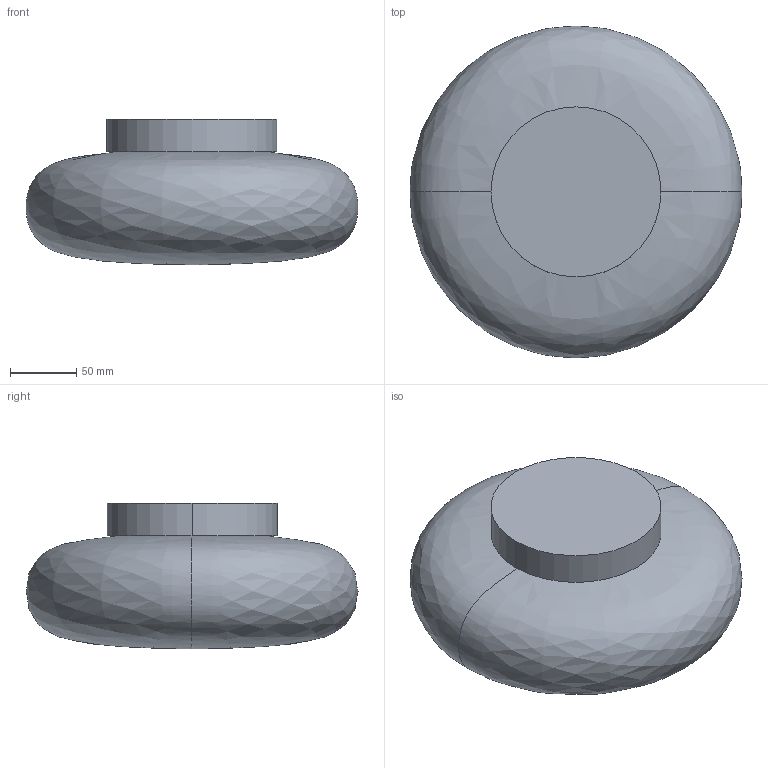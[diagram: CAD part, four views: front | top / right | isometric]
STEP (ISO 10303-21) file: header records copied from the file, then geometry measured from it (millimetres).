
FILE_DESCRIPTION(/* description */ (''),/* implementation_level */ '2;1');
FILE_NAME(/* name */ 'SNOWBALL25 C',/* time_stamp */ '2026-08-05T16:56:27+09:00',/* author */ (''),/* organization */ (''),/* preprocessor_version */ 'ST-DEVELOPER v19.2',/* originating_system */ 'Rhino 8.21',/* authorisation */ '');
FILE_SCHEMA (('CONFIG_CONTROL_DESIGN'));
Length unit declared in the file: millimetre
Products named in the file (1): Document
Bounding box: 249.89 x 250 x 109.44 mm (x, y, z)
Volume: 3738002.1 mm3; surface area: 149904.5 mm2
Topology: 1 solids, 1 shells, 6 faces, 12 edges, 7 vertices
Faces by surface type: cylinder 2, plane 2, bspline 2
Entity records: 648 total; most frequent: CARTESIAN_POINT 457, ORIENTED_EDGE 20, DIRECTION 20, AXIS2_PLACEMENT_3D 12, EDGE_CURVE 10, EDGE_LOOP 7, VERTEX_POINT 7, ORGANIZATION 7
